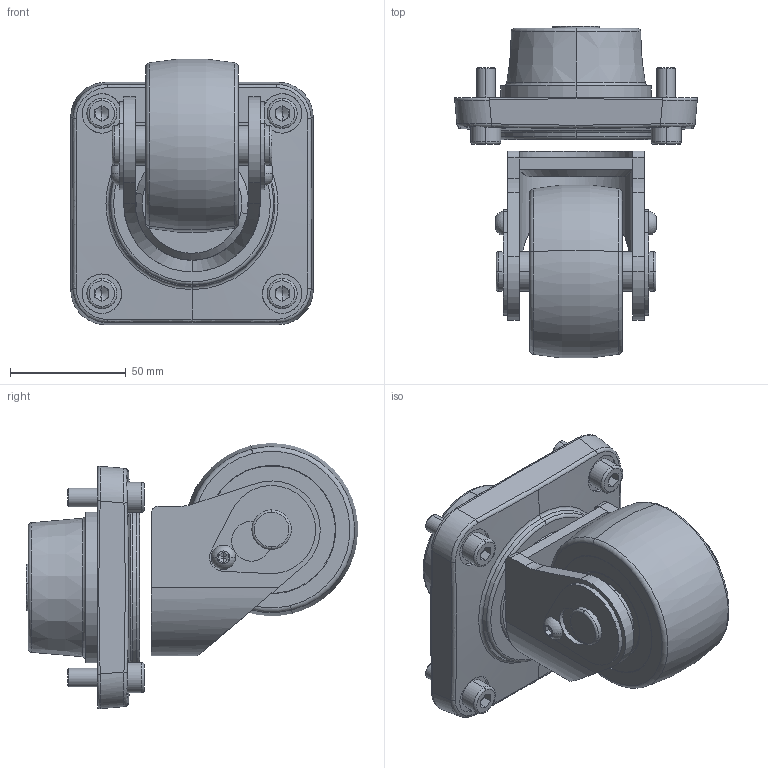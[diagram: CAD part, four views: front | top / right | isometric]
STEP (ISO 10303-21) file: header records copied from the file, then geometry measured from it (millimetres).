
FILE_DESCRIPTION (( 'STEP AP203' ), '1' );
FILE_NAME ('3渡創笭褐謫軞傖.STEP', '2018-04-02T13:08:44', ( '' ), ( '' ), 'SwSTEP 2.0', 'SolidWorks 2016', '' );
FILE_SCHEMA (( 'CONFIG_CONTROL_DESIGN' ));
Length unit declared in the file: millimetre
Products named in the file (1): 3渡創笭褐謫軞傖
Bounding box: 104.73 x 143.3 x 114.67 mm (x, y, z)
Surface area: 88279.1 mm2 (no closed solid volume)
Topology: 0 solids, 30 shells, 388 faces, 1513 edges, 1057 vertices
Faces by surface type: plane 109, cylinder 89, torus 66, sphere 58, cone 48, bspline 18
Entity records: 18237 total; most frequent: CARTESIAN_POINT 7158, DIRECTION 2247, ORIENTED_EDGE 2178, EDGE_CURVE 1343, AXIS2_PLACEMENT_3D 962, VERTEX_POINT 949, CIRCLE 591, EDGE_LOOP 435
